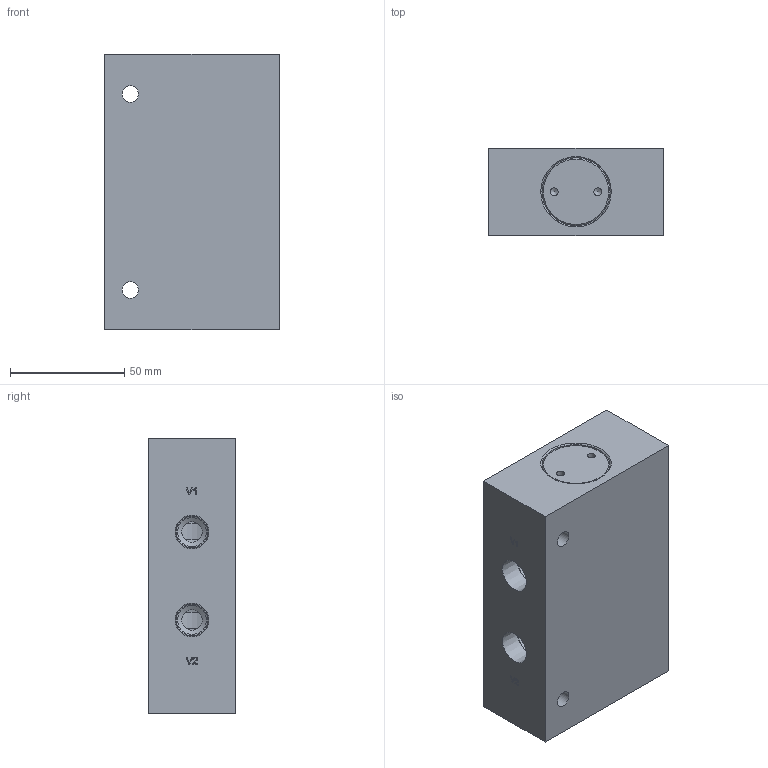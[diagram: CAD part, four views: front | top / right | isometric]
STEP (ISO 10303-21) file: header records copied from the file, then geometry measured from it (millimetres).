
FILE_DESCRIPTION(/* description */ (''),/* implementation_level */ '2;1');
FILE_NAME(/* name */ 'L:\ALADCO\Advertising\3D Content\Valves\Step Files - 2014-11-19 thru Present\62380X.stp',/* time_stamp */ '2014-11-20T10:02:37-06:00',/* author */ ('dmatz'),/* organization */ (''),/* preprocessor_version */ 'ST-DEVELOPER v15.2',/* originating_system */ 'Autodesk Inventor 2014',/* authorisation */ '');
FILE_SCHEMA (('AUTOMOTIVE_DESIGN { 1 0 10303 214 3 1 1 }'));
Length unit declared in the file: inch
Products named in the file (3): 620027; 620025; 623801
Bounding box: 76.2 x 38.1 x 120.65 mm (x, y, z)
Volume: 285510.5 mm3; surface area: 57169.8 mm2
Topology: 3 solids, 3 shells, 249 faces, 627 edges, 402 vertices
Faces by surface type: plane 94, bspline 66, cylinder 51, cone 32, torus 6
Full cylindrical faces by diameter (mm): 3.454 x4, 7.144 x2, 8.992 x4, 12.7 x4, 13.081 x2, 13.894 x4, 16.129 x2, 21.107 x2, 25.4 x1, 26.035 x2, 28.524 x4, 28.575 x4, 29.591 x2, 29.766 x2, 31.75 x2
Entity records: 6600 total; most frequent: CARTESIAN_POINT 2317, ORIENTED_EDGE 840, DIRECTION 668, EDGE_CURVE 420, VERTEX_POINT 302, EDGE_LOOP 290, AXIS2_PLACEMENT_3D 239, ADVANCED_FACE 199
